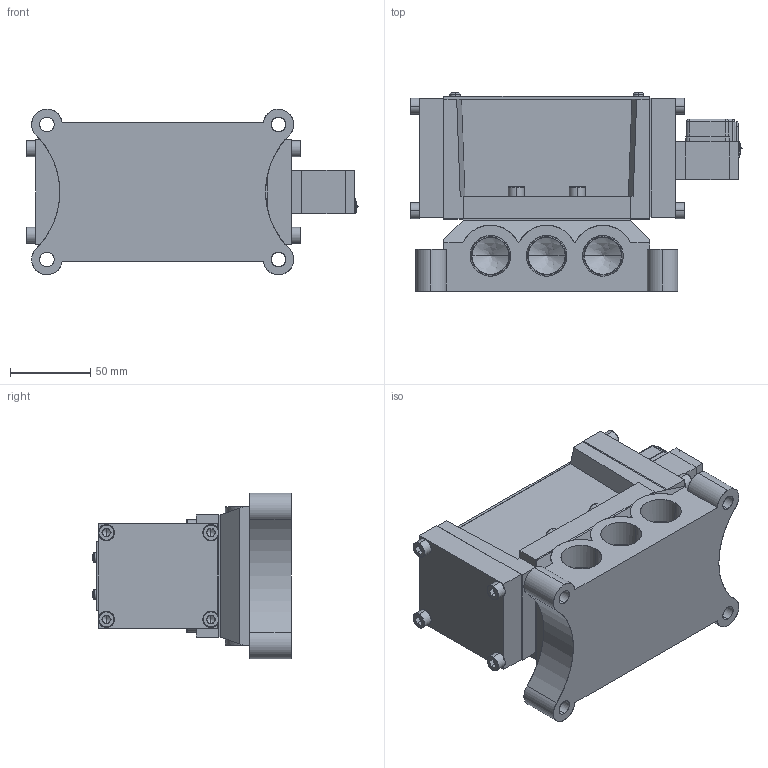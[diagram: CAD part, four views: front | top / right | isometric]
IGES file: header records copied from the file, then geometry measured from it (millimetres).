
Start section: SolidWorks IGES file using analytic representation for surfaces
Global section: file name: C:\Users\Toshiba\Desktop\PMS2415#-06-#G#.IGS; native system: SolidWorks 2014; preprocessor: SolidWorks 2014; author: Toshiba; date: 160122.142749; units: millimetre
Bounding box: 206.47 x 123.55 x 103 mm (x, y, z)
Surface area: 196194.9 mm2 (no closed solid volume)
Topology: 0 solids, 0 shells, 862 faces, 9273 edges, 9228 vertices
Faces by surface type: bspline 551, revolution 311
